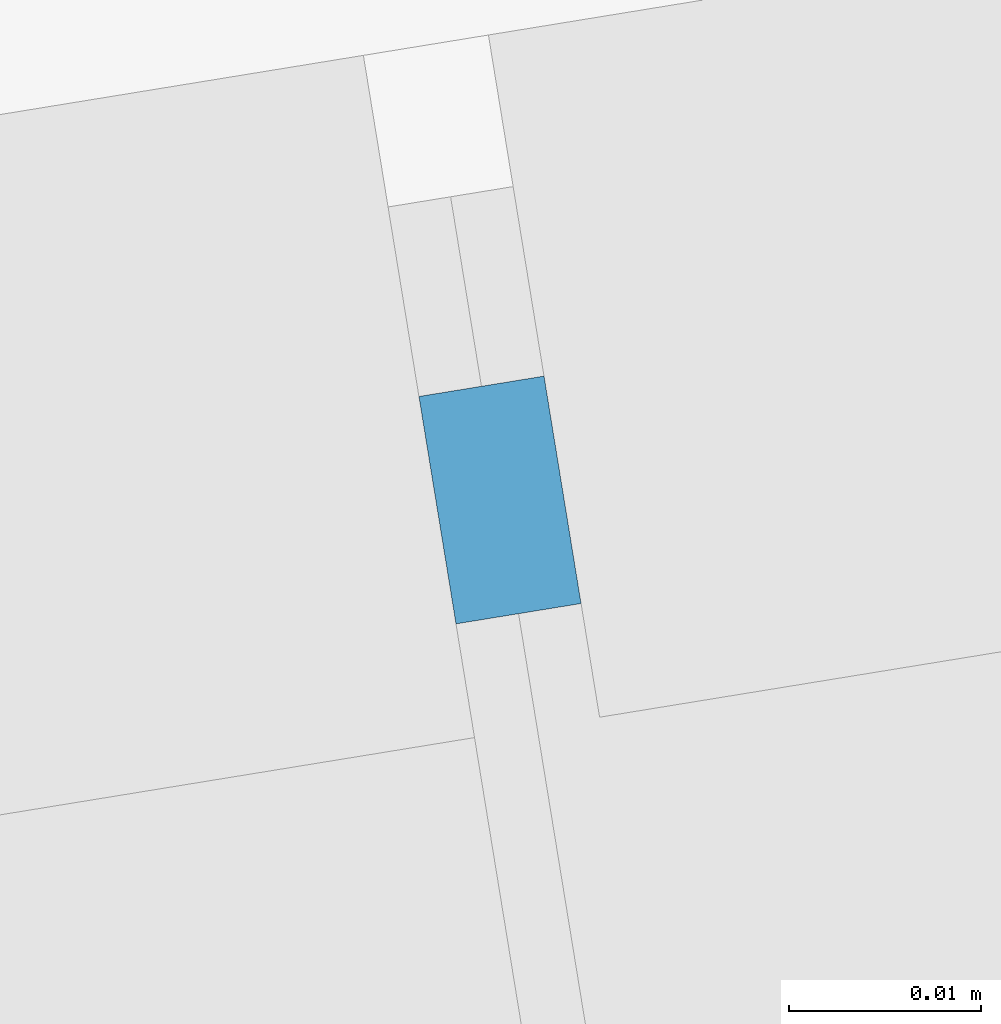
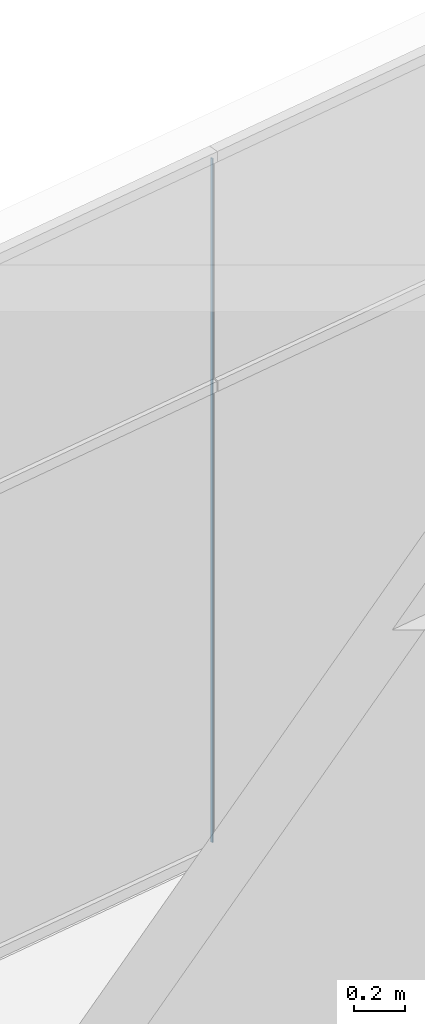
# One storey, part 8 of 13: 2 members, 1 element without a shape of its own.
"""IFC2X3 building model written with IfcOpenShell, lengths in millimetres."""

from ifc_helpers import new_model, entity, si_unit, converted_unit, derived_unit, direction, frame, origin, origin_with_axes, origin_2d_with_axis, place, context, subcontext, project, spatial, rectangle, extrude, source, transform, mapped, material, type_object, element, aggregate, save


model = new_model("IFC2X3")

# Units and contexts
plan_context = context("Plan", 3, precision=1e-05, world=origin_with_axes())
model_context = context("Model", 3, precision=0.01, world=origin(), true_north=direction((6.12323399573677e-17, 1.0)))
body_context = subcontext(model_context, "Body", "Model", "MODEL_VIEW")
ifc_project = project(units=[converted_unit("PLANEANGLEUNIT", "DEGREE", entity("IfcPositiveLengthMeasure", 0.0174532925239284), si_unit("PLANEANGLEUNIT", "RADIAN"), dimensions=[0, 0, 0, 0, 0, 0, 0]), si_unit("AREAUNIT", "SQUARE_METRE"), si_unit("LENGTHUNIT", "METRE", prefix="MILLI"), si_unit("MASSUNIT", "GRAM", prefix="KILO"), si_unit("POWERUNIT", "WATT"), si_unit("PRESSUREUNIT", "PASCAL", prefix="KILO"), si_unit("FORCEUNIT", "NEWTON", prefix="KILO"), si_unit("ELECTRICVOLTAGEUNIT", "VOLT"), si_unit("ELECTRICCURRENTUNIT", "AMPERE"), si_unit("THERMODYNAMICTEMPERATUREUNIT", "DEGREE_CELSIUS"), si_unit("TIMEUNIT", "SECOND"), si_unit("VOLUMEUNIT", "CUBIC_METRE"), derived_unit("LINEARVELOCITYUNIT", [(si_unit("LENGTHUNIT", "METRE"), 1), (si_unit("TIMEUNIT", "SECOND"), -1)]), derived_unit("VOLUMETRICFLOWRATEUNIT", [(si_unit("VOLUMEUNIT", "CUBIC_METRE"), 1), (si_unit("TIMEUNIT", "SECOND"), -1)]), derived_unit("THERMALTRANSMITTANCEUNIT", [(si_unit("POWERUNIT", "WATT"), 1), (si_unit("THERMODYNAMICTEMPERATUREUNIT", "KELVIN"), -1), (si_unit("AREAUNIT", "SQUARE_METRE"), -1)]), derived_unit("SOUNDPRESSUREUNIT", [(si_unit("PRESSUREUNIT", "PASCAL"), 1)])], contexts=[model_context, plan_context])

# Site, building, storey
site_placement = place(None, frame((-305029.896016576, -232111.759730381, 0.0), z_axis=(0.0, 0.0, 1.0), x_axis=(-0.160806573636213, 0.986985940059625, 0.0)))
site = spatial("IfcSite", under=ifc_project, at=site_placement, Name="Default", CompositionType="ELEMENT")
building_placement = place(site_placement, frame((0.0, 0.0, 0.0), z_axis=(0.0, 0.0, 1.0), x_axis=(1.0, -2.77555756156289e-17, 0.0)))
building = spatial("IfcBuilding", under=site, at=building_placement, Name="br001-a-200-1-0001", CompositionType="ELEMENT")
storey_placement = place(building_placement, frame((0.0, 0.0, 51360.0000000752), z_axis=(0.0, 0.0, 1.0), x_axis=(1.0, -2.77555756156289e-17, 0.0)))
storey = spatial("IfcBuildingStorey", under=building, at=storey_placement, Name="H01-Nivå D+0,36", CompositionType="ELEMENT", Elevation=51360.0000000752)

# Curtain wall, members
curtain_wall_type = type_object("IfcCurtainWallType", Name="Curtain Wall:A243 Innvendig glassvegg", PredefinedType="NOTDEFINED")
curtain_wall_placement = place(storey_placement, frame((0.0, 0.0, -51360.0000000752), z_axis=(0.0, 0.0, 1.0), x_axis=(1.0, -2.77555756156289e-17, 0.0)))
curtain_wall = element("IfcCurtainWall", 1, at=curtain_wall_placement, inside=storey, type_object=curtain_wall_type, Name="Curtain Wall:A243 Innvendig glassvegg", ObjectType="Curtain Wall:A243 Innvendig glassvegg")
ifc_material = material(Name="T2 - Rubber")
member_type_1 = type_object("IfcMemberType", Name="Rectangular Mullion:6.66x12", PredefinedType="MULLION", material=ifc_material)
shared_shape_1 = source(origin(), body_context, "Body", "SweptSolid", [
    extrude(rectangle(XDim=6.6, YDim=12.0, at=origin_2d_with_axis()), frame((0.0, 6.0, -2196.66666667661), z_axis=(0.0, 0.0, 1.0), x_axis=(-1.0, 0.0, 0.0)), (0.0, 0.0, 1.0), 2196.6666666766),
])
member_1_placement = place(curtain_wall_placement, frame((1160258.59858442, -708486.378367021, 51410.0000000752), z_axis=(0.0, 0.0, -1.0), x_axis=(-2.77555756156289e-17, -1.0, 0.0)))
member_1 = element("IfcMember", 2, at=member_1_placement, type_object=member_type_1, material=ifc_material, Name="Rectangular Mullion:6.66x12", ObjectType="Rectangular Mullion:6.66x12", context=body_context, shape_type="MappedRepresentation", body=[
    mapped(shared_shape_1, transform((0.0, 0.0, 0.0), scale=1.0)),
])
member_type_2 = type_object("IfcMemberType", Name="Rectangular Mullion:6.66x12", PredefinedType="MULLION", material=ifc_material)
shared_shape_2 = source(origin(), body_context, "Body", "SweptSolid", [
    extrude(rectangle(XDim=6.6, YDim=12.0, at=origin_2d_with_axis()), frame((0.0, 6.0, -1073.3333333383), z_axis=(0.0, 0.0, 1.0), x_axis=(-1.0, 0.0, 0.0)), (0.0, 0.0, 1.0), 1073.3333333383),
])
member_2_placement = place(curtain_wall_placement, frame((1160258.59858442, -708486.378367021, 53606.6666667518), z_axis=(0.0, 0.0, -1.0), x_axis=(-2.77555756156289e-17, -1.0, 0.0)))
member_2 = element("IfcMember", 3, at=member_2_placement, type_object=member_type_2, material=ifc_material, Name="Rectangular Mullion:6.66x12", ObjectType="Rectangular Mullion:6.66x12", context=body_context, shape_type="MappedRepresentation", body=[
    mapped(shared_shape_2, transform((0.0, 0.0, 0.0), scale=1.0)),
])
aggregate(curtain_wall, [member_1, member_2])

save(model, "model.ifc")
